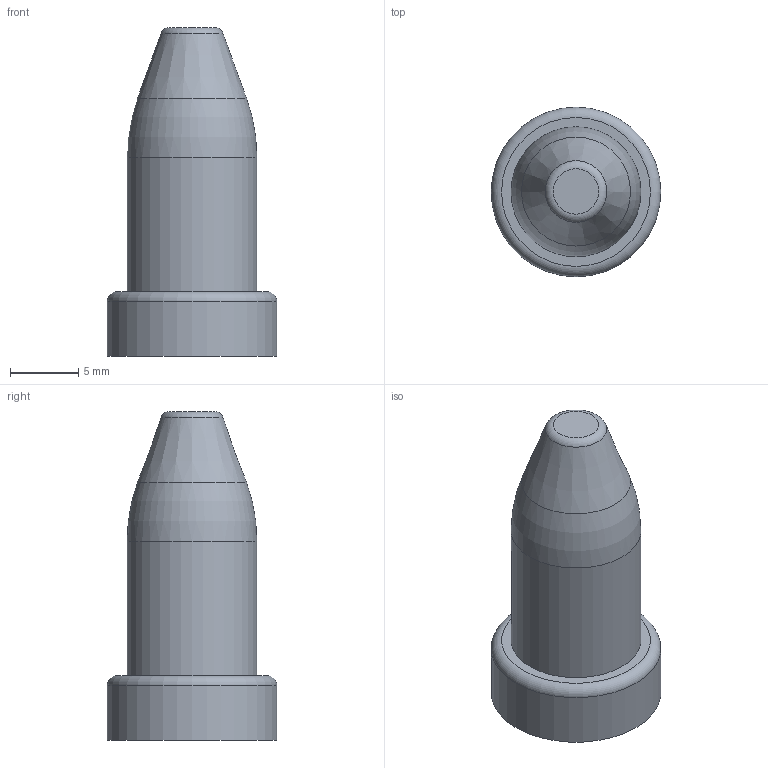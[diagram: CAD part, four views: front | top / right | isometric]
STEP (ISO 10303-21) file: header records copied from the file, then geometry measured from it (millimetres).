
FILE_DESCRIPTION (( 'STEP AP214' ), '1' );
FILE_NAME ('P-.375-.075-.500.STEP', '2023-11-06T20:55:11', ( '' ), ( '' ), 'SwSTEP 2.0', 'SolidWorks 2020', '' );
FILE_SCHEMA (( 'AUTOMOTIVE_DESIGN' ));
Length unit declared in the file: inch
Products named in the file (1): P-.375-.075-.500
Bounding box: 12.45 x 12.45 x 24.13 mm (x, y, z)
Volume: 1710.5 mm3; surface area: 883.5 mm2
Topology: 1 solids, 1 shells, 9 faces, 14 edges, 8 vertices
Faces by surface type: plane 3, torus 3, cylinder 2, cone 1
Full cylindrical faces by diameter (mm): 9.525 x1, 12.446 x1
Entity records: 214 total; most frequent: DIRECTION 36, CARTESIAN_POINT 26, AXIS2_PLACEMENT_3D 18, ORIENTED_EDGE 16, EDGE_LOOP 16, FACE_OUTER_BOUND 14, ADVANCED_FACE 9, CIRCLE 8
